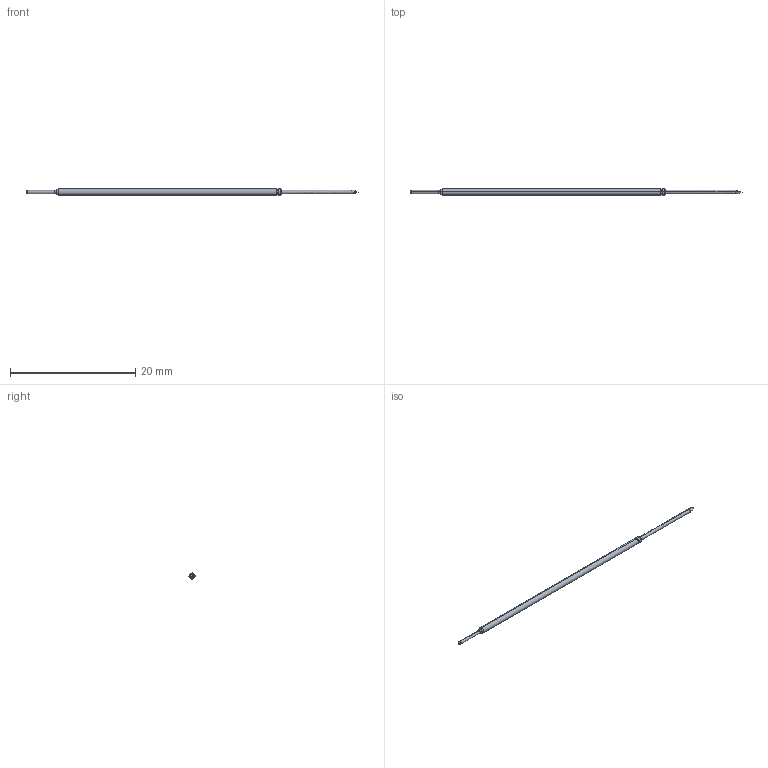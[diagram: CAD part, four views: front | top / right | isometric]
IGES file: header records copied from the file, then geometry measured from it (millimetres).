
Start section: SolidWorks IGES file using analytic representation for surfaces
Global section: file name: C:\Documents and Settings\mrumschlag\Desktop\changes\new\test\T24 .IGS; native system: SolidWorks 2011; preprocessor: SolidWorks 2011; author: mrumschlag; date: 110630.163407; units: inch
Bounding box: 53.09 x 0.97 x 0.97 mm (x, y, z)
Surface area: 139.2 mm2 (no closed solid volume)
Topology: 0 solids, 0 shells, 26 faces, 166 edges, 164 vertices
Faces by surface type: revolution 14, bspline 12
